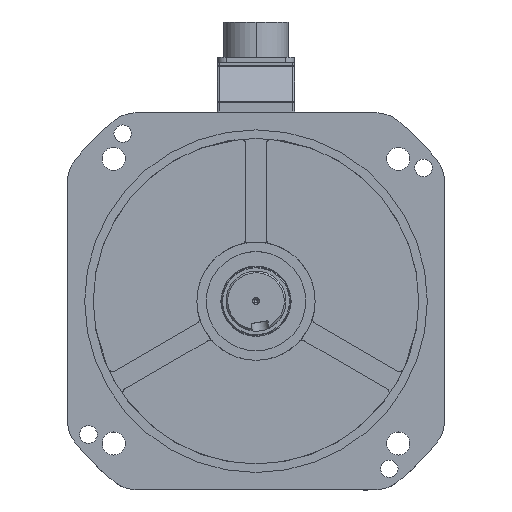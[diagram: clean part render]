
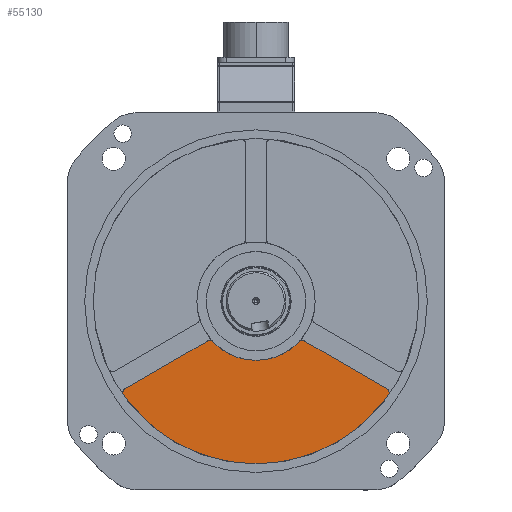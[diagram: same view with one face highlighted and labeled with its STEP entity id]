
A CAD part, top view. The second image highlights one B-rep face of the part: STEP entity #55130.
In plain terms, the highlighted planar face has unit normal (0, 0, 1).
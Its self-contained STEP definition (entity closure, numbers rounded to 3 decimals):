
#650 = CARTESIAN_POINT ( 'NONE',  ( -28.527, 23.398, 16. ) ) ;
#829 = AXIS2_PLACEMENT_3D ( 'NONE', #24320, #3395, #66890 ) ;
#1103 = DIRECTION ( 'NONE',  ( 0., 0., 1. ) ) ;
#2195 = CARTESIAN_POINT ( 'NONE',  ( 0., 0., 16. ) ) ;
#2815 = DIRECTION ( 'NONE',  ( 1., 0., 0. ) ) ;
#3395 = DIRECTION ( 'NONE',  ( 0., 0., 1. ) ) ;
#4774 = EDGE_CURVE ( 'NONE', #25712, #51386, #47801, .T. ) ;
#5611 = CIRCLE ( 'NONE', #23403, 3. ) ;
#5813 = EDGE_CURVE ( 'NONE', #51901, #38893, #50244, .T. ) ;
#6044 = VECTOR ( 'NONE', #41847, 1000. ) ;
#6077 = CIRCLE ( 'NONE', #12732, 95. ) ;
#7037 = CARTESIAN_POINT ( 'NONE',  ( -3., 5.196, 16. ) ) ;
#7100 = DIRECTION ( 'NONE',  ( 0., 0., 1. ) ) ;
#7918 = ORIENTED_EDGE ( 'NONE', *, *, #63834, .T. ) ;
#8578 = DIRECTION ( 'NONE',  ( 0., 0., 1. ) ) ;
#9931 = PLANE ( 'NONE',  #829 ) ;
#10686 = CIRCLE ( 'NONE', #12905, 34.5 ) ;
#10834 = EDGE_CURVE ( 'NONE', #38893, #41342, #49327, .T. ) ;
#11298 = DIRECTION ( 'NONE',  ( 1., 0., 0. ) ) ;
#11525 = EDGE_CURVE ( 'NONE', #46003, #15223, #58362, .T. ) ;
#12110 = ORIENTED_EDGE ( 'NONE', *, *, #11525, .T. ) ;
#12732 = AXIS2_PLACEMENT_3D ( 'NONE', #49890, #39428, #2815 ) ;
#12905 = AXIS2_PLACEMENT_3D ( 'NONE', #2195, #7100, #44370 ) ;
#13222 = ORIENTED_EDGE ( 'NONE', *, *, #4774, .T. ) ;
#15223 = VERTEX_POINT ( 'NONE', #32451 ) ;
#18108 = CARTESIAN_POINT ( 'NONE',  ( 76.292, 50.976, 16. ) ) ;
#19234 = CARTESIAN_POINT ( 'NONE',  ( 27.027, 25.996, 16. ) ) ;
#20594 = LINE ( 'NONE', #37295, #6044 ) ;
#20734 = CARTESIAN_POINT ( 'NONE',  ( 74.792, 53.574, 16. ) ) ;
#20792 = ORIENTED_EDGE ( 'NONE', *, *, #60541, .F. ) ;
#22614 = EDGE_CURVE ( 'NONE', #57914, #46003, #5611, .T. ) ;
#23403 = AXIS2_PLACEMENT_3D ( 'NONE', #66482, #8578, #66149 ) ;
#24320 = CARTESIAN_POINT ( 'NONE',  ( 0., 0., 16. ) ) ;
#24423 = ORIENTED_EDGE ( 'NONE', *, *, #5813, .T. ) ;
#25712 = VERTEX_POINT ( 'NONE', #650 ) ;
#26827 = VERTEX_POINT ( 'NONE', #68065 ) ;
#27385 = ORIENTED_EDGE ( 'NONE', *, *, #50790, .F. ) ;
#27588 = CARTESIAN_POINT ( 'NONE',  ( -74.792, 53.574, 16. ) ) ;
#32043 = EDGE_LOOP ( 'NONE', ( #58068, #27385, #52697, #12110, #20792, #13222, #52061, #7918, #24423 ) ) ;
#32451 = CARTESIAN_POINT ( 'NONE',  ( -76.292, 50.976, 16. ) ) ;
#37295 = CARTESIAN_POINT ( 'NONE',  ( 3., 5.196, 16. ) ) ;
#38893 = VERTEX_POINT ( 'NONE', #18108 ) ;
#39428 = DIRECTION ( 'NONE',  ( 0., 0., -1. ) ) ;
#41342 = VERTEX_POINT ( 'NONE', #58863 ) ;
#41847 = DIRECTION ( 'NONE',  ( -0.866, 0.5, 0. ) ) ;
#43111 = DIRECTION ( 'NONE',  ( 1., 0., 0. ) ) ;
#43348 = AXIS2_PLACEMENT_3D ( 'NONE', #65105, #44464, #43111 ) ;
#44370 = DIRECTION ( 'NONE',  ( 1., 0., 0. ) ) ;
#44464 = DIRECTION ( 'NONE',  ( 0., 0., 1. ) ) ;
#44835 = AXIS2_PLACEMENT_3D ( 'NONE', #20734, #63295, #11298 ) ;
#46003 = VERTEX_POINT ( 'NONE', #51013 ) ;
#47580 = FACE_OUTER_BOUND ( 'NONE', #32043, .T. ) ;
#47801 = CIRCLE ( 'NONE', #43348, 3. ) ;
#49327 = CIRCLE ( 'NONE', #44835, 3. ) ;
#49422 = AXIS2_PLACEMENT_3D ( 'NONE', #27588, #1103, #59685 ) ;
#49713 = CARTESIAN_POINT ( 'NONE',  ( -77.231, 55.321, 16. ) ) ;
#49890 = CARTESIAN_POINT ( 'NONE',  ( 0., 0., 16. ) ) ;
#50244 = LINE ( 'NONE', #7037, #64644 ) ;
#50790 = EDGE_CURVE ( 'NONE', #57914, #41342, #6077, .T. ) ;
#51013 = CARTESIAN_POINT ( 'NONE',  ( -77.792, 53.574, 16. ) ) ;
#51386 = VERTEX_POINT ( 'NONE', #58169 ) ;
#51901 = VERTEX_POINT ( 'NONE', #60025 ) ;
#52061 = ORIENTED_EDGE ( 'NONE', *, *, #54133, .F. ) ;
#52341 = DIRECTION ( 'NONE',  ( 1., 0., 0. ) ) ;
#52697 = ORIENTED_EDGE ( 'NONE', *, *, #22614, .T. ) ;
#54133 = EDGE_CURVE ( 'NONE', #26827, #51386, #10686, .T. ) ;
#55130 = ADVANCED_FACE ( 'NONE', ( #47580 ), #9931, .T. ) ;
#55811 = DIRECTION ( 'NONE',  ( 0.866, 0.5, 0. ) ) ;
#57267 = DIRECTION ( 'NONE',  ( 0., 0., 1. ) ) ;
#57914 = VERTEX_POINT ( 'NONE', #49713 ) ;
#58068 = ORIENTED_EDGE ( 'NONE', *, *, #10834, .T. ) ;
#58169 = CARTESIAN_POINT ( 'NONE',  ( -24.865, 23.917, 16. ) ) ;
#58362 = CIRCLE ( 'NONE', #49422, 3. ) ;
#58863 = CARTESIAN_POINT ( 'NONE',  ( 77.231, 55.321, 16. ) ) ;
#59685 = DIRECTION ( 'NONE',  ( 1., 0., 0. ) ) ;
#60025 = CARTESIAN_POINT ( 'NONE',  ( 28.527, 23.398, 16. ) ) ;
#60541 = EDGE_CURVE ( 'NONE', #25712, #15223, #20594, .T. ) ;
#63287 = AXIS2_PLACEMENT_3D ( 'NONE', #19234, #57267, #52341 ) ;
#63295 = DIRECTION ( 'NONE',  ( 0., 0., 1. ) ) ;
#63834 = EDGE_CURVE ( 'NONE', #26827, #51901, #68825, .T. ) ;
#64644 = VECTOR ( 'NONE', #55811, 1000. ) ;
#65105 = CARTESIAN_POINT ( 'NONE',  ( -27.027, 25.996, 16. ) ) ;
#66149 = DIRECTION ( 'NONE',  ( 1., 0., 0. ) ) ;
#66482 = CARTESIAN_POINT ( 'NONE',  ( -74.792, 53.574, 16. ) ) ;
#66890 = DIRECTION ( 'NONE',  ( 1., 0., 0. ) ) ;
#68065 = CARTESIAN_POINT ( 'NONE',  ( 24.865, 23.917, 16. ) ) ;
#68825 = CIRCLE ( 'NONE', #63287, 3. ) ;
